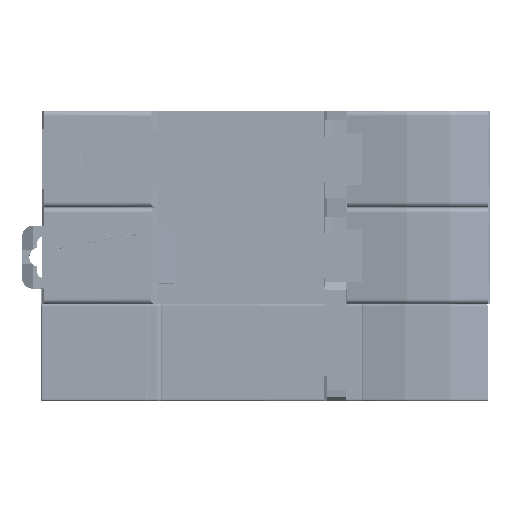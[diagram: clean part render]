
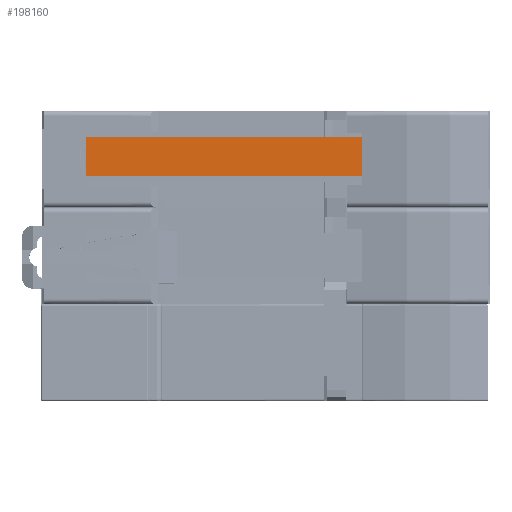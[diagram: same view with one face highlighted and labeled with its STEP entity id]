
A CAD part, front view. The second image highlights one B-rep face of the part: STEP entity #198160.
In plain terms, the highlighted planar face has unit normal (0, -1, 0).
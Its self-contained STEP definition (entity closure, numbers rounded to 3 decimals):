
#1695 = VECTOR ( 'NONE', #51885, 1000. ) ;
#8726 = DIRECTION ( 'NONE',  ( 0.009, 0., -1. ) ) ;
#11870 = DIRECTION ( 'NONE',  ( 0., 1., 0. ) ) ;
#15986 = VERTEX_POINT ( 'NONE', #142883 ) ;
#19201 = FACE_OUTER_BOUND ( 'NONE', #181802, .T. ) ;
#22636 = CARTESIAN_POINT ( 'NONE',  ( -3.876, 3.207, 1.315 ) ) ;
#36848 = LINE ( 'NONE', #233423, #121426 ) ;
#43912 = LINE ( 'NONE', #122337, #66606 ) ;
#49123 = LINE ( 'NONE', #168993, #187133 ) ;
#51885 = DIRECTION ( 'NONE',  ( -1., 0., 0. ) ) ;
#52618 = EDGE_CURVE ( 'NONE', #89516, #154936, #55268, .T. ) ;
#55268 = LINE ( 'NONE', #105443, #1695 ) ;
#60630 = EDGE_CURVE ( 'NONE', #174532, #15986, #36848, .T. ) ;
#66606 = VECTOR ( 'NONE', #175900, 1000. ) ;
#67393 = DIRECTION ( 'NONE',  ( 1., 0., 0. ) ) ;
#77139 = VERTEX_POINT ( 'NONE', #22636 ) ;
#78486 = CARTESIAN_POINT ( 'NONE',  ( -36.661, 3.207, 1.315 ) ) ;
#82803 = CARTESIAN_POINT ( 'NONE',  ( -3.938, 3.207, 8.4 ) ) ;
#83045 = EDGE_CURVE ( 'NONE', #174532, #154936, #43912, .T. ) ;
#89516 = VERTEX_POINT ( 'NONE', #163867 ) ;
#98998 = CARTESIAN_POINT ( 'NONE',  ( -51.258, 3.207, 1.315 ) ) ;
#105443 = CARTESIAN_POINT ( 'NONE',  ( -135.966, 3.207, 1.315 ) ) ;
#121426 = VECTOR ( 'NONE', #123249, 1000. ) ;
#122337 = CARTESIAN_POINT ( 'NONE',  ( -36.661, 3.207, 1.315 ) ) ;
#123249 = DIRECTION ( 'NONE',  ( 0., 0., 1. ) ) ;
#132937 = ORIENTED_EDGE ( 'NONE', *, *, #60630, .F. ) ;
#136432 = EDGE_CURVE ( 'NONE', #141750, #77139, #171825, .T. ) ;
#137897 = PLANE ( 'NONE',  #230208 ) ;
#141750 = VERTEX_POINT ( 'NONE', #147545 ) ;
#142883 = CARTESIAN_POINT ( 'NONE',  ( -54.111, 3.207, 8.4 ) ) ;
#143662 = VECTOR ( 'NONE', #150164, 1000. ) ;
#147545 = CARTESIAN_POINT ( 'NONE',  ( -3.938, 3.207, 8.4 ) ) ;
#149237 = EDGE_CURVE ( 'NONE', #15986, #141750, #49123, .T. ) ;
#149332 = LINE ( 'NONE', #78486, #143662 ) ;
#150164 = DIRECTION ( 'NONE',  ( 1., 0., 0. ) ) ;
#154936 = VERTEX_POINT ( 'NONE', #98998 ) ;
#157564 = DIRECTION ( 'NONE',  ( 1., 0., 0. ) ) ;
#163867 = CARTESIAN_POINT ( 'NONE',  ( -47.196, 3.207, 1.315 ) ) ;
#168993 = CARTESIAN_POINT ( 'NONE',  ( -135.966, 3.207, 8.4 ) ) ;
#169162 = ORIENTED_EDGE ( 'NONE', *, *, #136432, .F. ) ;
#171825 = LINE ( 'NONE', #82803, #214061 ) ;
#174532 = VERTEX_POINT ( 'NONE', #228368 ) ;
#175900 = DIRECTION ( 'NONE',  ( 1., 0., 0. ) ) ;
#181802 = EDGE_LOOP ( 'NONE', ( #169162, #225007, #132937, #186776, #222704, #224498 ) ) ;
#186776 = ORIENTED_EDGE ( 'NONE', *, *, #83045, .T. ) ;
#187133 = VECTOR ( 'NONE', #67393, 1000. ) ;
#198160 = ADVANCED_FACE ( 'NONE', ( #19201 ), #137897, .F. ) ;
#209492 = CARTESIAN_POINT ( 'NONE',  ( -135.966, 3.207, -20.282 ) ) ;
#214061 = VECTOR ( 'NONE', #8726, 1000. ) ;
#219812 = EDGE_CURVE ( 'NONE', #89516, #77139, #149332, .T. ) ;
#222704 = ORIENTED_EDGE ( 'NONE', *, *, #52618, .F. ) ;
#224498 = ORIENTED_EDGE ( 'NONE', *, *, #219812, .T. ) ;
#225007 = ORIENTED_EDGE ( 'NONE', *, *, #149237, .F. ) ;
#228368 = CARTESIAN_POINT ( 'NONE',  ( -54.111, 3.207, 1.315 ) ) ;
#230208 = AXIS2_PLACEMENT_3D ( 'NONE', #209492, #11870, #157564 ) ;
#233423 = CARTESIAN_POINT ( 'NONE',  ( -54.111, 3.207, -20.282 ) ) ;
